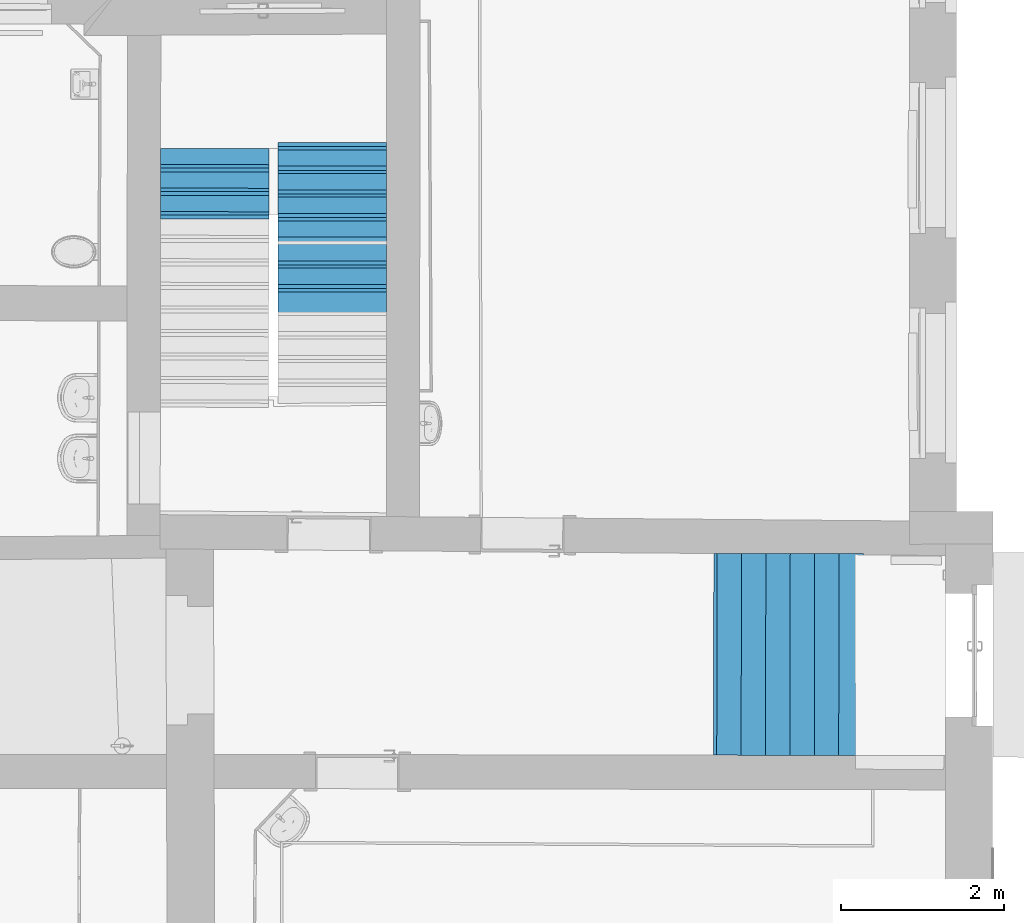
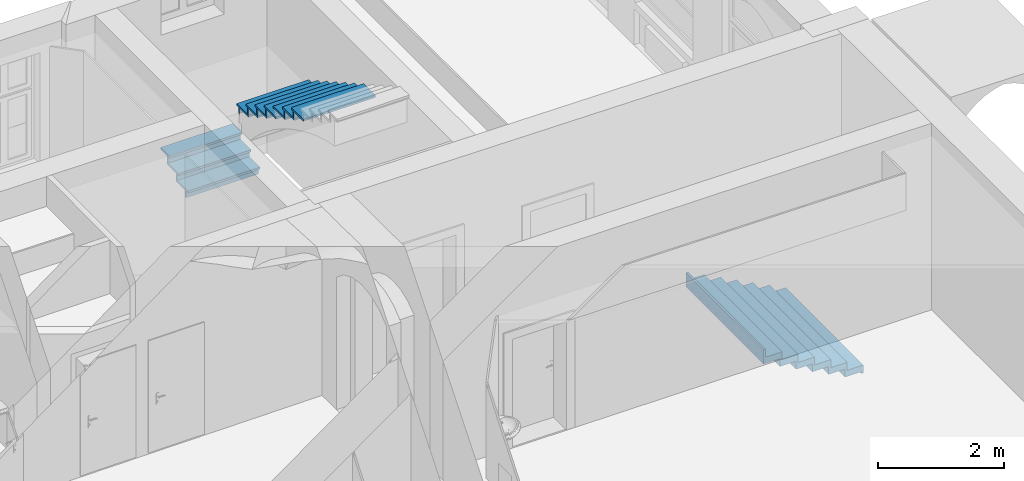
# One storey, part 115 of 158: 20 building element parts, 3 elements without a shape of their own.
"""IFC2X3 building model written with IfcOpenShell, lengths in metres."""

from ifc_helpers import new_model, entity, si_unit, converted_unit, derived_unit, money_unit, direction, frame, origin_with_axes, place, context, subcontext, project, spatial, faceted_brep, material, element, aggregate, save


model = new_model("IFC2X3")

# Units and contexts
model_context = context("Model", 3, precision=1e-05, world=origin_with_axes(), true_north=direction((0.0, 1.0)))
body_context = subcontext(model_context, "Body", "Model", "MODEL_VIEW")
ifc_project = project(units=[si_unit("LENGTHUNIT", "METRE"), si_unit("AREAUNIT", "SQUARE_METRE"), si_unit("VOLUMEUNIT", "CUBIC_METRE"), converted_unit("PLANEANGLEUNIT", "DEGREE", entity("IfcPlaneAngleMeasure", 0.0174532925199), si_unit("PLANEANGLEUNIT", "RADIAN"), dimensions=[0, 0, 0, 0, 0, 0, 0]), money_unit("EUR"), converted_unit("TIMEUNIT", "Year", entity("IfcTimeMeasure", 31556926.0), si_unit("TIMEUNIT", "SECOND"), dimensions=[0, 0, 1, 0, 0, 0, 0]), si_unit("MASSUNIT", "GRAM", prefix="KILO"), si_unit("THERMODYNAMICTEMPERATUREUNIT", "DEGREE_CELSIUS"), si_unit("LUMINOUSINTENSITYUNIT", "LUMEN"), si_unit("ENERGYUNIT", "JOULE", prefix="MEGA"), derived_unit("THERMALCONDUCTANCEUNIT", [(si_unit("POWERUNIT", "WATT"), 1), (si_unit("LENGTHUNIT", "METRE"), -1), (si_unit("THERMODYNAMICTEMPERATUREUNIT", "KELVIN"), -1)]), derived_unit("SPECIFICHEATCAPACITYUNIT", [(si_unit("ENERGYUNIT", "JOULE"), 1), (si_unit("MASSUNIT", "GRAM", prefix="KILO"), -1), (si_unit("THERMODYNAMICTEMPERATUREUNIT", "KELVIN"), -1)]), derived_unit("MASSDENSITYUNIT", [(si_unit("MASSUNIT", "GRAM", prefix="KILO"), 1), (si_unit("VOLUMEUNIT", "CUBIC_METRE"), -1)])], contexts=[model_context])

# Site, building, storey
site_placement = place(None, origin_with_axes())
site = spatial("IfcSite", under=ifc_project, at=site_placement, Name="Gelände", CompositionType="ELEMENT")
building_placement = place(site_placement, origin_with_axes())
building = spatial("IfcBuilding", under=site, at=building_placement, Name="Gebäude", CompositionType="ELEMENT")
storey_placement = place(building_placement, origin_with_axes())
storey = spatial("IfcBuildingStorey", under=building, at=storey_placement, Name="ERDGESCHOSS", CompositionType="ELEMENT", Elevation=0.0)

# Stair, building element part
stair_1_placement = place(storey_placement, frame((30.5273888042, 16.805215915, -1.16), z_axis=(0.0, 0.0, 1.0), x_axis=(1.0, 0.0, 0.0)))
stair_1 = element("IfcStair", 1, at=stair_1_placement, inside=storey, Name="Treppe-003", ShapeType="NOTDEFINED")
ifc_material = material(Name="05_ALLGEMEIN - TRAGENDE BAUTEILE")
building_element_part_1_placement = place(stair_1_placement, origin_with_axes())
building_element_part_1 = element("IfcBuildingElementPart", 2, at=building_element_part_1_placement, material=ifc_material, Name="05_ALLGEMEIN - TRAGENDE BAUTEILE", context=body_context, shape_type="Brep", body=[
    faceted_brep([(-1.83313679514, 2.48328659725, 0.949999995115), (-1.79313687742, 2.48321497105, 0.949999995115), (-1.79313687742, 2.48321497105, 0.934285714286), (-1.49354055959, 2.4826784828, 0.934285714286), (-1.49354055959, 2.4826784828, 0.778571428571), (-1.19394425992, 2.48214198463, 0.778571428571), (-1.19394425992, 2.48214198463, 0.622857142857), (-0.89434796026, 2.48160548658, 0.622857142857), (-0.89434796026, 2.48160548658, 0.467142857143), (-0.594751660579, 2.48106899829, 0.467142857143), (-0.594751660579, 2.48106899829, 0.311428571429), (-0.295155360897, 2.48053250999, 0.311428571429), (-0.295155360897, 2.48053250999, 0.155714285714), (0.00444093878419, 2.4799960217, 0.155714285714), (0.00444093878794, 2.4799960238, 0.0), (-0.0355589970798, 2.48006765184, 0.0), (-0.0355589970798, 2.48006765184, 0.0357142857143), (-0.335155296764, 2.48060413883, 0.0357142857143), (-0.335155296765, 2.48060413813, 0.191428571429), (-0.634751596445, 2.48114062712, 0.191428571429), (-0.634751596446, 2.48114062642, 0.347142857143), (-0.934347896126, 2.48167711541, 0.347142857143), (-0.934347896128, 2.48167711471, 0.502857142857), (-1.23394419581, 2.4822136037, 0.502857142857), (-1.23394419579, 2.48221361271, 0.658571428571), (-1.53354049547, 2.48275010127, 0.658571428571), (-1.53354049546, 2.48275011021, 0.814285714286), (-1.83313679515, 2.48328659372, 0.814285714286), (-1.7931426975, 2.47995976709, 0.949999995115), (-1.8331421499, 2.48029628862, 0.949999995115), (-1.79314270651, 2.47995976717, 1.09), (-1.79757780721, 0.00321892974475, 1.09), (-1.79757780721, 0.00321892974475, 0.934285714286), (-1.49798149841, 0.00268244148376, 0.934285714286), (-1.49798149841, 0.00268244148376, 0.778571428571), (-1.19838519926, 0.00214595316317, 0.778571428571), (-1.19838519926, 0.00214595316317, 0.622857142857), (-0.898788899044, 0.00160946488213, 0.622857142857), (-0.898788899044, 0.00160946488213, 0.467142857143), (-0.599192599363, 0.00107297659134, 0.467142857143), (-0.599192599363, 0.00107297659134, 0.311428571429), (-0.299596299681, 0.000536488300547, 0.311428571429), (-0.299596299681, 0.000536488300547, 0.155714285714), (0.0, 0.0, 0.155714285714), (0.0, 0.0, 0.0), (-0.0399999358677, 7.16280449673e-05, 0.0), (-0.0399999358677, 7.16280449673e-05, 0.0357142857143), (-0.339596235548, 0.000608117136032, 0.0357142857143), (-0.339596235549, 0.000608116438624, 0.191428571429), (-0.639192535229, 0.00114460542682, 0.191428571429), (-0.63919253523, 0.00114460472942, 0.347142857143), (-0.93878883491, 0.00168109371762, 0.347142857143), (-0.938788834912, 0.00168109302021, 0.502857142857), (-1.23838513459, 0.00221758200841, 0.502857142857), (-1.23838513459, 0.00221758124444, 0.658571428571), (-1.53798143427, 0.00275406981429, 0.658571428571), (-1.53798143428, 0.00275406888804, 0.814285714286), (-1.83757773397, 0.00329055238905, 0.814285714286), (-1.83757773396, 0.00329055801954, 0.97), (-1.83314214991, 2.48029628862, 0.97), (-1.83314214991, 2.48029628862, 1.09), (-1.83757773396, 0.00329055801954, 1.09)], [[[0, 1, 2, 3, 4, 5, 6, 7, 8, 9, 10, 11, 12, 13, 14, 15, 16, 17, 18, 19, 20, 21, 22, 23, 24, 25, 26, 27]], [[28, 1, 0, 29]], [[28, 30, 31, 32, 2, 1]], [[3, 2, 32, 33]], [[33, 34, 4, 3]], [[5, 4, 34, 35]], [[35, 36, 6, 5]], [[7, 6, 36, 37]], [[37, 38, 8, 7]], [[9, 8, 38, 39]], [[39, 40, 10, 9]], [[11, 10, 40, 41]], [[41, 42, 12, 11]], [[13, 12, 42, 43]], [[13, 43, 44, 14]], [[14, 44, 45, 15]], [[46, 16, 15, 45]], [[16, 46, 47, 17]], [[48, 18, 17, 47]], [[19, 18, 48, 49]], [[50, 20, 19, 49]], [[21, 20, 50, 51]], [[52, 22, 21, 51]], [[23, 22, 52, 53]], [[54, 24, 23, 53]], [[25, 24, 54, 55]], [[56, 26, 25, 55]], [[27, 26, 56, 57]], [[29, 0, 27, 57, 58, 59]], [[60, 30, 28, 29, 59]], [[30, 60, 61, 31]], [[31, 61, 58, 57, 56, 55, 54, 53, 52, 51, 50, 49, 48, 47, 46, 45, 44, 43, 42, 41, 40, 39, 38, 37, 36, 35, 34, 33, 32]], [[60, 59, 58, 61]]]),
])
aggregate(stair_1, [building_element_part_1])

# Stair, building element parts
stair_2_placement = place(storey_placement, frame((21.8959454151, 21.0830287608, -0.0587690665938), z_axis=(0.0, 0.0, 1.0), x_axis=(0.999997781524, -0.00210640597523, 0.0)))
stair_2 = element("IfcStair", 3, at=stair_2_placement, inside=storey, Name="Treppe-003", ShapeType="NOTDEFINED")
building_element_part_2_placement = place(stair_2_placement, origin_with_axes())
building_element_part_2 = element("IfcBuildingElementPart", 4, at=building_element_part_2_placement, material=ifc_material, Name="05_ALLGEMEIN - TRAGENDE BAUTEILE", context=body_context, shape_type="Brep", body=[
    faceted_brep([(1.32810437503, 2.36266143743, 1.42157679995), (1.32807227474, 2.40266142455, 1.42157679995), (-0.00192729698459, 2.40159409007, 1.42157679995), (-0.00189519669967, 2.36159410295, 1.42157679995), (1.32810437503, 2.36266143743, 1.29917937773), (1.32807227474, 2.40266142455, 1.29917937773), (-0.00192729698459, 2.40159409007, 1.29917937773), (-0.00189519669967, 2.36159410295, 1.29917937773)], [[[0, 1, 2, 3]], [[0, 4, 5, 1]], [[1, 5, 6, 2]], [[3, 2, 6, 7]], [[4, 0, 3, 7]], [[5, 4, 7, 6]]]),
])
building_element_part_3_placement = place(stair_2_placement, origin_with_axes())
building_element_part_3 = element("IfcBuildingElementPart", 5, at=building_element_part_3_placement, material=ifc_material, Name="05_ALLGEMEIN - TRAGENDE BAUTEILE", context=body_context, shape_type="Brep", body=[
    faceted_brep([(1.32787249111, 2.65161070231, 1.58397422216), (1.32784039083, 2.69161068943, 1.58397422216), (-0.00215918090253, 2.69054335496, 1.58397422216), (-0.0021270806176, 2.65054336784, 1.58397422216), (1.32787249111, 2.65161070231, 1.46157679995), (1.32784039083, 2.69161068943, 1.46157679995), (-0.00215918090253, 2.69054335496, 1.46157679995), (-0.0021270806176, 2.65054336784, 1.46157679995)], [[[0, 1, 2, 3]], [[0, 4, 5, 1]], [[1, 5, 6, 2]], [[3, 2, 6, 7]], [[4, 0, 3, 7]], [[5, 4, 7, 6]]]),
])
building_element_part_4_placement = place(stair_2_placement, origin_with_axes())
building_element_part_4 = element("IfcBuildingElementPart", 6, at=building_element_part_4_placement, material=ifc_material, Name="05_ALLGEMEIN - TRAGENDE BAUTEILE", context=body_context, shape_type="Brep", body=[
    faceted_brep([(1.32764060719, 2.94055996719, 1.74637164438), (1.32760850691, 2.98055995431, 1.74637164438), (-0.00239106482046, 2.97949261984, 1.74637164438), (-0.00235896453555, 2.93949263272, 1.74637164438), (1.32764060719, 2.94055996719, 1.62397422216), (1.32760850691, 2.98055995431, 1.62397422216), (-0.00239106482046, 2.97949261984, 1.62397422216), (-0.00235896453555, 2.93949263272, 1.62397422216)], [[[0, 1, 2, 3]], [[0, 4, 5, 1]], [[1, 5, 6, 2]], [[3, 2, 6, 7]], [[4, 0, 3, 7]], [[5, 4, 7, 6]]]),
])
building_element_part_5_placement = place(stair_2_placement, origin_with_axes())
building_element_part_5 = element("IfcBuildingElementPart", 7, at=building_element_part_5_placement, material=ifc_material, Name="05_ALLGEMEIN - TRAGENDE BAUTEILE", context=body_context, shape_type="Brep", body=[
    faceted_brep([(-0.00185507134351, 2.31159411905, 1.42157679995), (1.32814450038, 2.31266145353, 1.42157679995), (1.32814450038, 2.31266145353, 1.46157679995), (-0.00185507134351, 2.31159411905, 1.46157679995), (-0.00215918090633, 2.6905433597, 1.42157679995), (1.32784039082, 2.69161069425, 1.42157679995), (1.32784039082, 2.69161069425, 1.46157679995), (-0.00215918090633, 2.6905433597, 1.46157679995)], [[[0, 1, 2, 3]], [[0, 4, 5, 1]], [[1, 5, 6, 2]], [[3, 2, 6, 7]], [[4, 0, 3, 7]], [[5, 4, 7, 6]]]),
])
building_element_part_6_placement = place(stair_2_placement, origin_with_axes())
building_element_part_6 = element("IfcBuildingElementPart", 8, at=building_element_part_6_placement, material=ifc_material, Name="05_ALLGEMEIN - TRAGENDE BAUTEILE", context=body_context, shape_type="Brep", body=[
    faceted_brep([(-0.00208695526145, 2.60054338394, 1.58397422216), (1.32791261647, 2.60161071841, 1.58397422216), (1.32791261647, 2.60161071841, 1.62397422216), (-0.00208695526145, 2.60054338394, 1.62397422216), (-0.0023910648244, 2.97949262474, 1.58397422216), (1.3276085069, 2.98055995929, 1.58397422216), (1.3276085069, 2.98055995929, 1.62397422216), (-0.0023910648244, 2.97949262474, 1.62397422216)], [[[0, 1, 2, 3]], [[0, 4, 5, 1]], [[1, 5, 6, 2]], [[3, 2, 6, 7]], [[4, 0, 3, 7]], [[5, 4, 7, 6]]]),
])
building_element_part_7_placement = place(stair_2_placement, origin_with_axes())
building_element_part_7 = element("IfcBuildingElementPart", 9, at=building_element_part_7_placement, material=ifc_material, Name="05_ALLGEMEIN - TRAGENDE BAUTEILE", context=body_context, shape_type="Brep", body=[
    faceted_brep([(1.32744884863, 3.17950924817, 1.74637164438), (1.32744884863, 3.17950924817, 1.78637164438), (1.32768073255, 2.89055998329, 1.78637164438), (1.32768073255, 2.89055998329, 1.74637164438), (-0.00255072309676, 3.1784419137, 1.78637164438), (-0.00255072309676, 3.1784419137, 1.74637164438), (-0.00231883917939, 2.88949264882, 1.78637164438), (-0.00231883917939, 2.88949264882, 1.74637164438)], [[[0, 1, 2, 3]], [[4, 1, 0, 5]], [[1, 4, 6, 2]], [[6, 7, 3, 2]], [[5, 0, 3, 7]], [[4, 5, 7, 6]]]),
])
aggregate(stair_2, [building_element_part_2, building_element_part_3, building_element_part_4, building_element_part_5, building_element_part_6, building_element_part_7])

stair_3_placement = place(storey_placement, frame((24.6725396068, 24.3329310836, 1.86929199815), z_axis=(0.0, 0.0, 1.0), x_axis=(-0.999999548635, 0.000950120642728, 0.0)))
stair_3 = element("IfcStair", 10, at=stair_3_placement, inside=storey, Name="Treppe-003", ShapeType="NOTDEFINED")
building_element_part_8_placement = place(stair_3_placement, origin_with_axes())
building_element_part_8 = element("IfcBuildingElementPart", 11, at=building_element_part_8_placement, material=ifc_material, Name="05_ALLGEMEIN - TRAGENDE BAUTEILE", context=body_context, shape_type="Brep", body=[
    faceted_brep([(-7.22169777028e-05, 0.0899999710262, 0.0207080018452), (-4.01169361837e-05, 0.0499999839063, 0.0207080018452), (-4.01253561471e-05, 0.0499999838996, 0.123256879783), (-7.22256410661e-05, 0.0899999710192, 0.123256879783), (1.32995944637, 0.0510673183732, 0.0207080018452), (1.3298579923, 0.0910672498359, 0.0207080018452), (1.32985216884, 0.0746065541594, 0.0207080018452), (1.32994055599, 0.0746065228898, 0.0207080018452), (1.32995944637, 0.0510673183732, 0.123256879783), (1.32992734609, 0.0910673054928, 0.123256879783), (1.32992734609, 0.0910673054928, 0.0), (1.3298579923, 0.0910672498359, 0.0), (1.32985216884, 0.0746065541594, 0.0), (1.32994055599, 0.0746065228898, 0.0)], [[[0, 1, 2, 3]], [[4, 1, 0, 5, 6, 7]], [[1, 4, 8, 2]], [[2, 8, 9, 3]], [[5, 0, 3, 9, 10, 11]], [[11, 12, 6, 5]], [[12, 13, 7, 6]], [[7, 13, 10, 9, 8, 4]], [[12, 11, 10, 13]]]),
])
building_element_part_9_placement = place(stair_3_placement, origin_with_axes())
building_element_part_9 = element("IfcBuildingElementPart", 12, at=building_element_part_9_placement, material=ifc_material, Name="05_ALLGEMEIN - TRAGENDE BAUTEILE", context=body_context, shape_type="Brep", body=[
    faceted_brep([(1.32972639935, 0.341465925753, 0.286513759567), (1.32969429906, 0.381465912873, 0.286513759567), (-0.00030527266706, 0.380398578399, 0.286513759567), (-0.000273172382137, 0.34039859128, 0.286513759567), (1.32972639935, 0.341465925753, 0.163256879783), (1.32969429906, 0.381465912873, 0.163256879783), (-0.00030527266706, 0.380398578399, 0.163256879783), (-0.000273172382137, 0.34039859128, 0.163256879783)], [[[0, 1, 2, 3]], [[0, 4, 5, 1]], [[1, 5, 6, 2]], [[3, 2, 6, 7]], [[4, 0, 3, 7]], [[5, 4, 7, 6]]]),
])
building_element_part_10_placement = place(stair_3_placement, origin_with_axes())
building_element_part_10 = element("IfcBuildingElementPart", 13, at=building_element_part_10_placement, material=ifc_material, Name="05_ALLGEMEIN - TRAGENDE BAUTEILE", context=body_context, shape_type="Brep", body=[
    faceted_brep([(-0.000506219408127, 0.63079719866, 0.44977063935), (1.32949335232, 0.631864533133, 0.44977063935), (1.32946125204, 0.671864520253, 0.44977063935), (-0.000538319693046, 0.670797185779, 0.44977063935), (-0.000506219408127, 0.63079719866, 0.326513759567), (1.32949335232, 0.631864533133, 0.326513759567), (1.32946125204, 0.671864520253, 0.326513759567), (-0.000538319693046, 0.670797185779, 0.326513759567)], [[[0, 1, 2, 3]], [[4, 5, 1, 0]], [[2, 1, 5, 6]], [[3, 2, 6, 7]], [[4, 0, 3, 7]], [[7, 6, 5, 4]]]),
])
building_element_part_11_placement = place(stair_3_placement, origin_with_axes())
building_element_part_11 = element("IfcBuildingElementPart", 14, at=building_element_part_11_placement, material=ifc_material, Name="05_ALLGEMEIN - TRAGENDE BAUTEILE", context=body_context, shape_type="Brep", body=[
    faceted_brep([(-0.000739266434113, 0.92119580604, 0.613027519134), (1.32926030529, 0.922263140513, 0.613027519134), (1.32922820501, 0.962263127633, 0.613027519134), (-0.000771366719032, 0.961195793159, 0.613027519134), (-0.000739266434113, 0.92119580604, 0.48977063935), (1.32926030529, 0.922263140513, 0.48977063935), (1.32922820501, 0.962263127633, 0.48977063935), (-0.000771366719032, 0.961195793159, 0.48977063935)], [[[0, 1, 2, 3]], [[4, 5, 1, 0]], [[2, 1, 5, 6]], [[3, 2, 6, 7]], [[4, 0, 3, 7]], [[7, 6, 5, 4]]]),
])
building_element_part_12_placement = place(stair_3_placement, origin_with_axes())
building_element_part_12 = element("IfcBuildingElementPart", 15, at=building_element_part_12_placement, material=ifc_material, Name="05_ALLGEMEIN - TRAGENDE BAUTEILE", context=body_context, shape_type="Brep", body=[
    faceted_brep([(-0.00120536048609, 1.5019930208, 0.9395412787), (1.32879421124, 1.50306035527, 0.9395412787), (1.32876211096, 1.54306034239, 0.9395412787), (-0.00123746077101, 1.54199300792, 0.9395412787), (-0.00120536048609, 1.5019930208, 0.816284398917), (1.32879421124, 1.50306035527, 0.816284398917), (1.32876211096, 1.54306034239, 0.816284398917), (-0.00123746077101, 1.54199300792, 0.816284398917)], [[[0, 1, 2, 3]], [[4, 5, 1, 0]], [[2, 1, 5, 6]], [[3, 2, 6, 7]], [[4, 0, 3, 7]], [[7, 6, 5, 4]]]),
])
building_element_part_13_placement = place(stair_3_placement, origin_with_axes())
building_element_part_13 = element("IfcBuildingElementPart", 16, at=building_element_part_13_placement, material=ifc_material, Name="05_ALLGEMEIN - TRAGENDE BAUTEILE", context=body_context, shape_type="Brep", body=[
    faceted_brep([(-0.00143840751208, 1.79239162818, 1.10279815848), (1.32856116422, 1.79345896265, 1.10279815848), (1.32852906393, 1.83345894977, 1.10279815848), (-0.00147050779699, 1.8323916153, 1.10279815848), (-0.00143840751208, 1.79239162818, 0.9795412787), (1.32856116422, 1.79345896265, 0.9795412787), (1.32852906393, 1.83345894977, 0.9795412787), (-0.00147050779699, 1.8323916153, 0.9795412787)], [[[0, 1, 2, 3]], [[4, 5, 1, 0]], [[2, 1, 5, 6]], [[3, 2, 6, 7]], [[4, 0, 3, 7]], [[7, 6, 5, 4]]]),
])
building_element_part_14_placement = place(stair_3_placement, origin_with_axes())
building_element_part_14 = element("IfcBuildingElementPart", 17, at=building_element_part_14_placement, material=ifc_material, Name="05_ALLGEMEIN - TRAGENDE BAUTEILE", context=body_context, shape_type="Brep", body=[
    faceted_brep([(0.0, 0.0, 0.123256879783), (1.32999957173, 0.00106733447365, 0.123256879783), (1.32999957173, 0.00106733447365, 0.163256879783), (0.0, 0.0, 0.163256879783), (-0.000305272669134, 0.380398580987, 0.123256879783), (1.32969429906, 0.381465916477, 0.123256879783), (1.32969429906, 0.381465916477, 0.163256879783), (-0.000305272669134, 0.380398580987, 0.163256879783)], [[[0, 1, 2, 3]], [[0, 4, 5, 1]], [[1, 5, 6, 2]], [[3, 2, 6, 7]], [[4, 0, 3, 7]], [[5, 4, 7, 6]]]),
])
building_element_part_15_placement = place(stair_3_placement, origin_with_axes())
building_element_part_15 = element("IfcBuildingElementPart", 18, at=building_element_part_15_placement, material=ifc_material, Name="05_ALLGEMEIN - TRAGENDE BAUTEILE", context=body_context, shape_type="Brep", body=[
    faceted_brep([(-0.00023304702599, 0.29039860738, 0.326513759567), (-0.00023304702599, 0.29039860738, 0.286513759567), (1.3297665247, 0.291465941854, 0.286513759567), (1.3297665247, 0.291465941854, 0.326513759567), (-0.000538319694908, 0.670797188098, 0.326513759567), (-0.000538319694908, 0.670797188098, 0.286513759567), (1.32946125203, 0.671864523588, 0.286513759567), (1.32946125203, 0.671864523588, 0.326513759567)], [[[0, 1, 2, 3]], [[4, 5, 1, 0]], [[2, 1, 5, 6]], [[3, 2, 6, 7]], [[4, 0, 3, 7]], [[7, 6, 5, 4]]]),
])
building_element_part_16_placement = place(stair_3_placement, origin_with_axes())
building_element_part_16 = element("IfcBuildingElementPart", 19, at=building_element_part_16_placement, material=ifc_material, Name="05_ALLGEMEIN - TRAGENDE BAUTEILE", context=body_context, shape_type="Brep", body=[
    faceted_brep([(-0.000466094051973, 0.58079721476, 0.48977063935), (-0.000466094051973, 0.58079721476, 0.44977063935), (1.32953347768, 0.581864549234, 0.44977063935), (1.32953347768, 0.581864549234, 0.48977063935), (-0.000771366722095, 0.961195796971, 0.48977063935), (-0.000771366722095, 0.961195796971, 0.44977063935), (1.32922820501, 0.962263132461, 0.44977063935), (1.32922820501, 0.962263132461, 0.48977063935)], [[[0, 1, 2, 3]], [[4, 5, 1, 0]], [[2, 1, 5, 6]], [[3, 2, 6, 7]], [[4, 0, 3, 7]], [[7, 6, 5, 4]]]),
])
building_element_part_17_placement = place(stair_3_placement, origin_with_axes())
building_element_part_17 = element("IfcBuildingElementPart", 20, at=building_element_part_17_placement, material=ifc_material, Name="05_ALLGEMEIN - TRAGENDE BAUTEILE", context=body_context, shape_type="Brep", body=[
    faceted_brep([(-0.000699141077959, 0.87119582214, 0.653027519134), (-0.000699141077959, 0.87119582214, 0.613027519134), (1.32930043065, 0.872263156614, 0.613027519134), (1.32930043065, 0.872263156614, 0.653027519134), (-0.00100441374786, 1.25159440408, 0.653027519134), (-0.00100441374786, 1.25159440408, 0.613027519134), (1.32899515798, 1.25266173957, 0.613027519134), (1.32899515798, 1.25266173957, 0.653027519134)], [[[0, 1, 2, 3]], [[4, 5, 1, 0]], [[2, 1, 5, 6]], [[3, 2, 6, 7]], [[4, 0, 3, 7]], [[7, 6, 5, 4]]]),
])
building_element_part_18_placement = place(stair_3_placement, origin_with_axes())
building_element_part_18 = element("IfcBuildingElementPart", 21, at=building_element_part_18_placement, material=ifc_material, Name="05_ALLGEMEIN - TRAGENDE BAUTEILE", context=body_context, shape_type="Brep", body=[
    faceted_brep([(-0.000932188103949, 1.16159442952, 0.816284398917), (-0.000932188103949, 1.16159442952, 0.776284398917), (1.32906738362, 1.16266176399, 0.776284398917), (1.32906738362, 1.16266176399, 0.816284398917), (-0.00123746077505, 1.54199301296, 0.816284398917), (-0.00123746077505, 1.54199301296, 0.776284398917), (1.32876211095, 1.54306034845, 0.776284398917), (1.32876211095, 1.54306034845, 0.816284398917)], [[[0, 1, 2, 3]], [[4, 5, 1, 0]], [[2, 1, 5, 6]], [[3, 2, 6, 7]], [[4, 0, 3, 7]], [[7, 6, 5, 4]]]),
])
building_element_part_19_placement = place(stair_3_placement, origin_with_axes())
building_element_part_19 = element("IfcBuildingElementPart", 22, at=building_element_part_19_placement, material=ifc_material, Name="05_ALLGEMEIN - TRAGENDE BAUTEILE", context=body_context, shape_type="Brep", body=[
    faceted_brep([(-0.00116523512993, 1.4519930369, 0.9795412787), (-0.00116523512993, 1.4519930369, 0.9395412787), (1.3288343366, 1.45306037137, 0.9395412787), (1.3288343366, 1.45306037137, 0.9795412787), (-0.00147050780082, 1.83239162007, 0.9795412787), (-0.00147050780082, 1.83239162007, 0.9395412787), (1.32852906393, 1.83345895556, 0.9395412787), (1.32852906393, 1.83345895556, 0.9795412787)], [[[0, 1, 2, 3]], [[4, 5, 1, 0]], [[2, 1, 5, 6]], [[3, 2, 6, 7]], [[4, 0, 3, 7]], [[7, 6, 5, 4]]]),
])
building_element_part_20_placement = place(stair_3_placement, origin_with_axes())
building_element_part_20 = element("IfcBuildingElementPart", 23, at=building_element_part_20_placement, material=ifc_material, Name="05_ALLGEMEIN - TRAGENDE BAUTEILE", context=body_context, shape_type="Brep", body=[
    faceted_brep([(-0.00139828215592, 1.74239164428, 1.14279815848), (-0.00139828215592, 1.74239164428, 1.10279815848), (1.32860128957, 1.74345897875, 1.10279815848), (1.32860128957, 1.74345897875, 1.14279815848), (-0.00170355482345, 2.12279022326, 1.14279815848), (-0.00170355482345, 2.12279022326, 1.10279815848), (1.3282960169, 2.12385755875, 1.10279815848), (1.3282960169, 2.12385755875, 1.14279815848)], [[[0, 1, 2, 3]], [[4, 5, 1, 0]], [[2, 1, 5, 6]], [[3, 2, 6, 7]], [[4, 0, 3, 7]], [[7, 6, 5, 4]]]),
])
aggregate(stair_3, [building_element_part_8, building_element_part_9, building_element_part_10, building_element_part_11, building_element_part_12, building_element_part_13, building_element_part_14, building_element_part_15, building_element_part_16, building_element_part_17, building_element_part_18, building_element_part_19, building_element_part_20])

save(model, "model.ifc")
